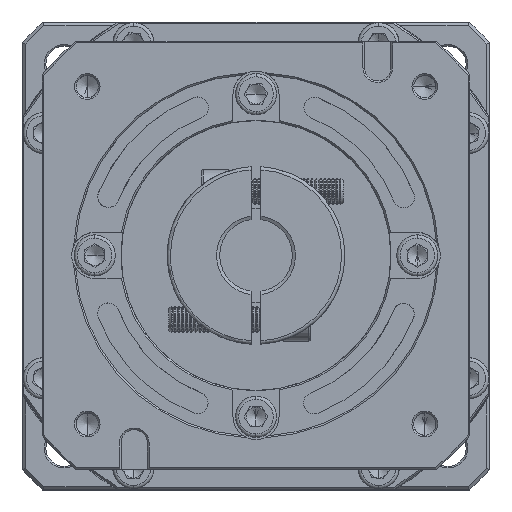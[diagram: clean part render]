
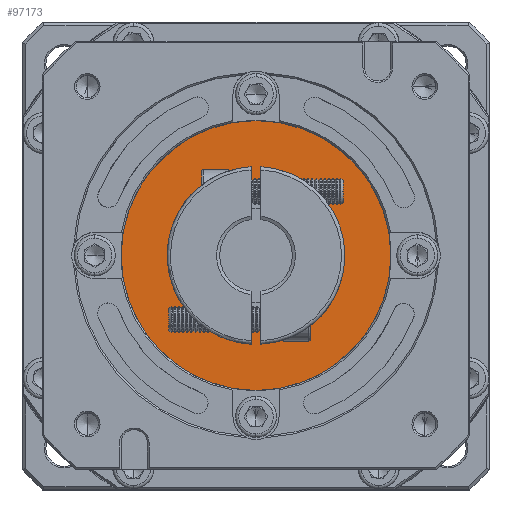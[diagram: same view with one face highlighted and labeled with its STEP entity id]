
A CAD part, top view. The second image highlights one B-rep face of the part: STEP entity #97173.
In plain terms, the highlighted planar face has unit normal (0, 0, 1).
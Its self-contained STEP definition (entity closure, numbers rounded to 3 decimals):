
#149 = ORIENTED_EDGE ( 'NONE', *, *, #133476, .T. ) ;
#3814 = AXIS2_PLACEMENT_3D ( 'NONE', #27906, #39960, #50928 ) ;
#6488 = DIRECTION ( 'NONE',  ( 0., 0., 1. ) ) ;
#9191 = EDGE_CURVE ( 'NONE', #100173, #100912, #124896, .T. ) ;
#14105 = CARTESIAN_POINT ( 'NONE',  ( -112.657, 52.386, -2.817 ) ) ;
#27743 = CARTESIAN_POINT ( 'NONE',  ( -112.657, 72.386, -2.817 ) ) ;
#27906 = CARTESIAN_POINT ( 'NONE',  ( -112.657, 72.386, -2.817 ) ) ;
#29106 = DIRECTION ( 'NONE',  ( 0., -1., 0. ) ) ;
#37085 = VERTEX_POINT ( 'NONE', #14105 ) ;
#39960 = DIRECTION ( 'NONE',  ( 0., 0., 1. ) ) ;
#49985 = CARTESIAN_POINT ( 'NONE',  ( -112.657, 31.386, -2.817 ) ) ;
#50928 = DIRECTION ( 'NONE',  ( 0., -1., 0. ) ) ;
#54255 = CIRCLE ( 'NONE', #128012, 20. ) ;
#56493 = CARTESIAN_POINT ( 'NONE',  ( -112.657, 113.386, -2.817 ) ) ;
#67837 = CIRCLE ( 'NONE', #116711, 20. ) ;
#69026 = VERTEX_POINT ( 'NONE', #117043 ) ;
#73289 = DIRECTION ( 'NONE',  ( 0., 0., -1. ) ) ;
#74673 = ORIENTED_EDGE ( 'NONE', *, *, #142738, .T. ) ;
#74736 = DIRECTION ( 'NONE',  ( 0., -1., 0. ) ) ;
#79851 = AXIS2_PLACEMENT_3D ( 'NONE', #108027, #130129, #129650 ) ;
#84659 = EDGE_CURVE ( 'NONE', #37085, #69026, #54255, .T. ) ;
#86952 = DIRECTION ( 'NONE',  ( 0., -1., 0. ) ) ;
#95969 = PLANE ( 'NONE',  #79851 ) ;
#97173 = ADVANCED_FACE ( 'NONE', ( #133149, #129491 ), #95969, .T. ) ;
#100173 = VERTEX_POINT ( 'NONE', #49985 ) ;
#100912 = VERTEX_POINT ( 'NONE', #56493 ) ;
#108027 = CARTESIAN_POINT ( 'NONE',  ( -112.657, 72.386, -2.817 ) ) ;
#108046 = DIRECTION ( 'NONE',  ( 0., 0., -1. ) ) ;
#111889 = CIRCLE ( 'NONE', #128757, 41. ) ;
#116711 = AXIS2_PLACEMENT_3D ( 'NONE', #27743, #108046, #86952 ) ;
#117043 = CARTESIAN_POINT ( 'NONE',  ( -112.657, 92.386, -2.817 ) ) ;
#118322 = EDGE_LOOP ( 'NONE', ( #139239, #149 ) ) ;
#119925 = CARTESIAN_POINT ( 'NONE',  ( -112.657, 72.386, -2.817 ) ) ;
#124896 = CIRCLE ( 'NONE', #3814, 41. ) ;
#128012 = AXIS2_PLACEMENT_3D ( 'NONE', #119925, #73289, #29106 ) ;
#128757 = AXIS2_PLACEMENT_3D ( 'NONE', #131530, #6488, #74736 ) ;
#129491 = FACE_BOUND ( 'NONE', #148814, .T. ) ;
#129650 = DIRECTION ( 'NONE',  ( 0., -1., 0. ) ) ;
#130129 = DIRECTION ( 'NONE',  ( 0., 0., 1. ) ) ;
#131530 = CARTESIAN_POINT ( 'NONE',  ( -112.657, 72.386, -2.817 ) ) ;
#133149 = FACE_OUTER_BOUND ( 'NONE', #118322, .T. ) ;
#133476 = EDGE_CURVE ( 'NONE', #100912, #100173, #111889, .T. ) ;
#139239 = ORIENTED_EDGE ( 'NONE', *, *, #9191, .T. ) ;
#142738 = EDGE_CURVE ( 'NONE', #69026, #37085, #67837, .T. ) ;
#145712 = ORIENTED_EDGE ( 'NONE', *, *, #84659, .T. ) ;
#148814 = EDGE_LOOP ( 'NONE', ( #145712, #74673 ) ) ;
